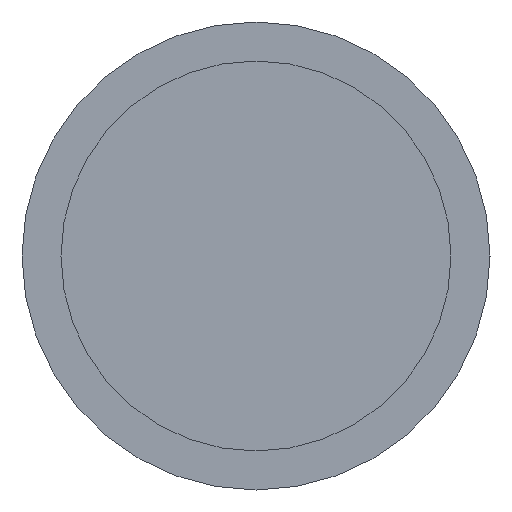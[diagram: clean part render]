
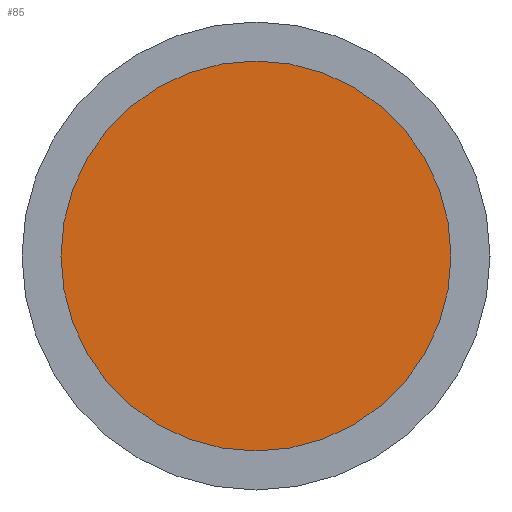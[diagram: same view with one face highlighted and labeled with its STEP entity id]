
A CAD part, left-side view. The second image highlights one B-rep face of the part: STEP entity #85.
In plain terms, the highlighted planar face has unit normal (-1, 0, 0).
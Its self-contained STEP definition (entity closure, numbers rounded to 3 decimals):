
#26=FACE_OUTER_BOUND('',#33,.T.);
#33=EDGE_LOOP('',(#63));
#42=CIRCLE('',#107,25.);
#48=VERTEX_POINT('',#152);
#54=EDGE_CURVE('',#48,#48,#42,.T.);
#63=ORIENTED_EDGE('',*,*,#54,.F.);
#81=PLANE('',#106);
#85=ADVANCED_FACE('',(#26),#81,.T.);
#106=AXIS2_PLACEMENT_3D('',#151,#121,#122);
#107=AXIS2_PLACEMENT_3D('',#153,#123,#124);
#121=DIRECTION('center_axis',(-1.,0.,0.));
#122=DIRECTION('ref_axis',(0.,0.,1.));
#123=DIRECTION('center_axis',(1.,0.,0.));
#124=DIRECTION('ref_axis',(0.,0.,-1.));
#151=CARTESIAN_POINT('Origin',(-165.,25.,0.));
#152=CARTESIAN_POINT('',(-165.,-25.,0.));
#153=CARTESIAN_POINT('Origin',(-165.,0.,0.));
